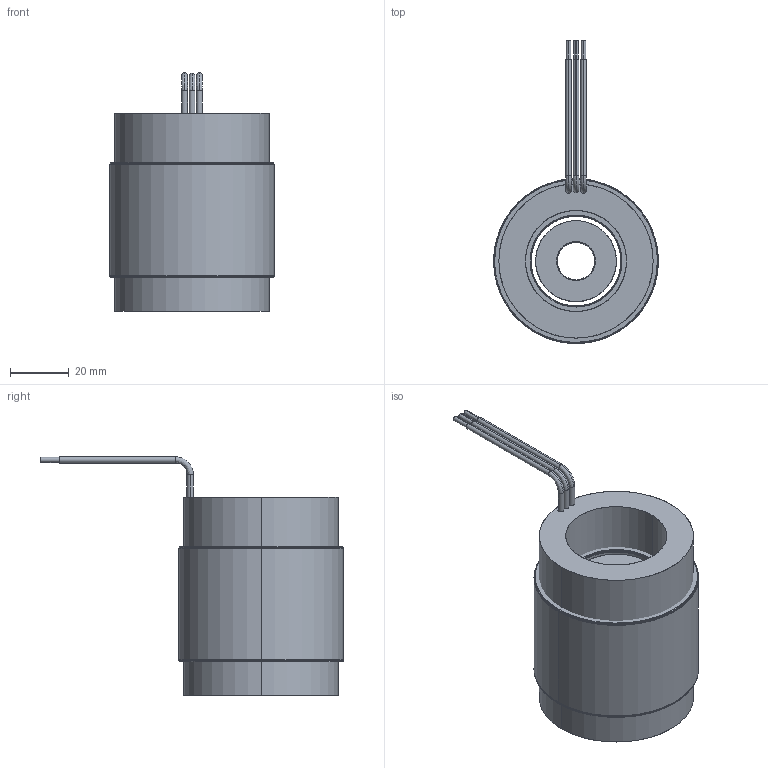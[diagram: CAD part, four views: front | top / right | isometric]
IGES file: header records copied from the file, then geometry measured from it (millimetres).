
Start section: SolidWorks IGES file using analytic representation for surfaces
Global section: file name: \\fs01.aveox.local\user documents\eng\My Documents\STANDARD STATOR ROTOR SETS\Standard rotor and stator set released\2.2 inch stator diameter\6100252-02.IGS; native system: SolidWorks 2016; preprocessor: SolidWorks 2016; author: eng; date: 191111.085644; units: millimetre
Bounding box: 55.85 x 102.72 x 80.9 mm (x, y, z)
Surface area: 55238.4 mm2 (no closed solid volume)
Topology: 0 solids, 0 shells, 84 faces, 2220 edges, 2220 vertices
Faces by surface type: revolution 50, bspline 34
